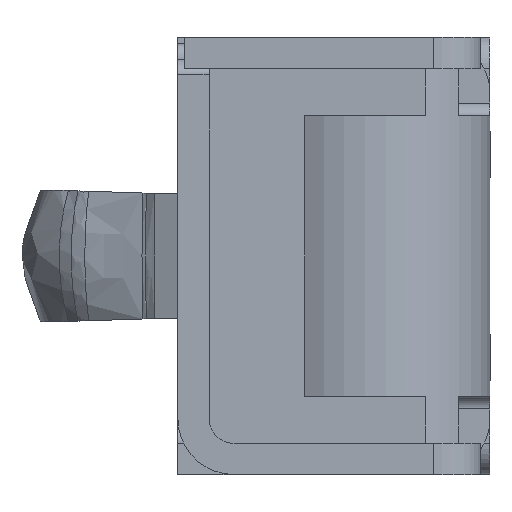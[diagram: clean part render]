
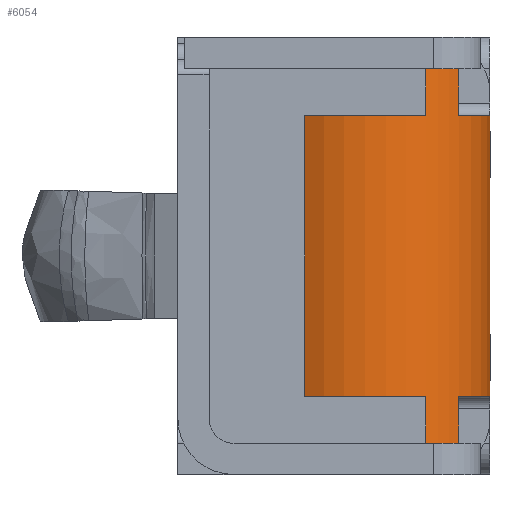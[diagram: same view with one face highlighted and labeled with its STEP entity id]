
A CAD part, left-side view. The second image highlights one B-rep face of the part: STEP entity #6054.
In plain terms, the highlighted cylindrical face has radius 0.4 mm (diameter 0.8 mm), a partial arc.
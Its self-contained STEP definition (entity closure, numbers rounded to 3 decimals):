
#462=CARTESIAN_POINT('',(0.85,-0.6,-0.4));
#463=DIRECTION('',(0.,-1.,0.));
#464=DIRECTION('',(0.875,0.,0.484));
#465=AXIS2_PLACEMENT_3D('',#462,#463,#464);
#591=DIRECTION('',(0.,1.,0.));
#592=VECTOR('',#591,0.15);
#593=CARTESIAN_POINT('',(1.2,-0.6,-0.206));
#594=LINE('',#593,#592);
#595=DIRECTION('',(0.,1.,0.));
#596=VECTOR('',#595,0.15);
#597=CARTESIAN_POINT('',(1.2,0.45,-0.206));
#598=LINE('',#597,#596);
#603=DIRECTION('',(0.,1.,0.));
#604=VECTOR('',#603,0.9);
#605=CARTESIAN_POINT('',(1.2,-0.45,-0.594));
#606=LINE('',#605,#604);
#607=DIRECTION('',(0.,1.,0.));
#608=VECTOR('',#607,0.911);
#609=CARTESIAN_POINT('',(0.85,-0.455,0.));
#610=LINE('',#609,#608);
#615=CARTESIAN_POINT('',(0.85,0.45,-0.4));
#616=DIRECTION('',(0.,1.,0.));
#617=DIRECTION('',(0.875,0.,0.484));
#618=AXIS2_PLACEMENT_3D('',#615,#616,#617);
#624=CARTESIAN_POINT('',(0.85,0.45,-0.4));
#625=DIRECTION('',(0.,1.,0.));
#626=DIRECTION('',(0.05,0.,0.999));
#627=AXIS2_PLACEMENT_3D('',#624,#625,#626);
#641=DIRECTION('',(0.,1.,0.));
#642=VECTOR('',#641,0.15);
#643=CARTESIAN_POINT('',(1.115,0.45,-0.1));
#644=LINE('',#643,#642);
#681=DIRECTION('',(0.,1.,0.));
#682=VECTOR('',#681,0.15);
#683=CARTESIAN_POINT('',(1.115,-0.6,-0.1));
#684=LINE('',#683,#682);
#975=CARTESIAN_POINT('',(0.85,-0.455,0.));
#976=CARTESIAN_POINT('',(0.853,-0.454,0.));
#977=CARTESIAN_POINT('',(0.86,-0.451,
0.));
#978=CARTESIAN_POINT('',(0.867,-0.45,0.));
#979=CARTESIAN_POINT('',(0.87,-0.45,-0.001));
#1117=CARTESIAN_POINT('',(0.85,0.6,-0.4));
#1118=DIRECTION('',(0.,-1.,0.));
#1119=DIRECTION('',(0.875,0.,0.484));
#1120=AXIS2_PLACEMENT_3D('',#1117,#1118,#1119);
#3312=CARTESIAN_POINT('',(0.87,0.45,-0.001));
#3313=CARTESIAN_POINT('',(0.867,0.45,0.));
#3314=CARTESIAN_POINT('',(0.86,0.451,
0.));
#3315=CARTESIAN_POINT('',(0.853,0.454,0.));
#3316=CARTESIAN_POINT('',(0.85,0.455,0.));
#3327=CARTESIAN_POINT('',(0.85,-0.45,-0.4));
#3328=DIRECTION('',(0.,1.,0.));
#3329=DIRECTION('',(0.875,0.,0.484));
#3330=AXIS2_PLACEMENT_3D('',#3327,#3328,#3329);
#3340=CARTESIAN_POINT('',(0.85,-0.45,-0.4));
#3341=DIRECTION('',(0.,1.,0.));
#3342=DIRECTION('',(0.05,0.,0.999));
#3343=AXIS2_PLACEMENT_3D('',#3340,#3341,#3342);
#4165=CARTESIAN_POINT('',(0.85,0.455,0.));
#4167=VERTEX_POINT('',#4165);
#4170=CARTESIAN_POINT('',(0.85,-0.455,0.));
#4172=VERTEX_POINT('',#4170);
#4321=VERTEX_POINT('',#3312);
#4322=VERTEX_POINT('',#979);
#4517=CARTESIAN_POINT('',(1.2,-0.45,-0.594));
#4518=CARTESIAN_POINT('',(1.2,0.45,-0.594));
#4519=VERTEX_POINT('',#4517);
#4520=VERTEX_POINT('',#4518);
#4622=CARTESIAN_POINT('',(1.2,-0.6,-0.206));
#4623=CARTESIAN_POINT('',(1.2,-0.45,-0.206));
#4624=VERTEX_POINT('',#4622);
#4625=VERTEX_POINT('',#4623);
#4626=CARTESIAN_POINT('',(1.2,0.45,-0.206));
#4627=CARTESIAN_POINT('',(1.2,0.6,-0.206));
#4628=VERTEX_POINT('',#4626);
#4629=VERTEX_POINT('',#4627);
#4630=CARTESIAN_POINT('',(1.115,-0.6,-0.1));
#4631=CARTESIAN_POINT('',(1.115,-0.45,-0.1));
#4632=VERTEX_POINT('',#4630);
#4633=VERTEX_POINT('',#4631);
#4634=CARTESIAN_POINT('',(1.115,0.45,-0.1));
#4635=CARTESIAN_POINT('',(1.115,0.6,-0.1));
#4636=VERTEX_POINT('',#4634);
#4637=VERTEX_POINT('',#4635);
#6023=CARTESIAN_POINT('',(0.85,-0.2,-0.4));
#6024=DIRECTION('',(0.,1.,0.));
#6025=DIRECTION('',(1.,0.,0.));
#6026=AXIS2_PLACEMENT_3D('',#6023,#6024,#6025);
#6027=CYLINDRICAL_SURFACE('',#6026,0.4);
#6029=ORIENTED_EDGE('',*,*,#6028,.T.);
#6031=ORIENTED_EDGE('',*,*,#6030,.T.);
#6033=ORIENTED_EDGE('',*,*,#6032,.F.);
#6034=ORIENTED_EDGE('',*,*,#6011,.F.);
#6036=ORIENTED_EDGE('',*,*,#6035,.T.);
#6037=ORIENTED_EDGE('',*,*,#6007,.F.);
#6039=ORIENTED_EDGE('',*,*,#6038,.F.);
#6040=ORIENTED_EDGE('',*,*,#6003,.F.);
#6041=ORIENTED_EDGE('',*,*,#5822,.T.);
#6043=ORIENTED_EDGE('',*,*,#6042,.T.);
#6045=ORIENTED_EDGE('',*,*,#6044,.F.);
#6047=ORIENTED_EDGE('',*,*,#6046,.F.);
#6049=ORIENTED_EDGE('',*,*,#6048,.T.);
#6051=ORIENTED_EDGE('',*,*,#6050,.F.);
#6052=EDGE_LOOP('',(#6029,#6031,#6033,#6034,#6036,#6037,#6039,#6040,#6041,#6043,
#6045,#6047,#6049,#6051));
#6053=FACE_OUTER_BOUND('',#6052,.F.);
#6054=ADVANCED_FACE('',(#6053),#6027,.T.);
#466=CIRCLE('',#465,0.4);
#619=CIRCLE('',#618,0.4);
#628=CIRCLE('',#627,0.4);
#980=B_SPLINE_CURVE_WITH_KNOTS('',3,(#975,#976,#977,#978,#979),.UNSPECIFIED.,
.F.,.F.,(4,1,4),(0.,0.5,1.),.UNSPECIFIED.);
#1121=CIRCLE('',#1120,0.4);
#3317=B_SPLINE_CURVE_WITH_KNOTS('',3,(#3312,#3313,#3314,#3315,#3316),
.UNSPECIFIED.,.F.,.F.,(4,1,4),(0.,0.5,1.),.UNSPECIFIED.);
#3331=CIRCLE('',#3330,0.4);
#3344=CIRCLE('',#3343,0.4);
#5822=EDGE_CURVE('',#4624,#4632,#466,.T.);
#6003=EDGE_CURVE('',#4624,#4625,#594,.T.);
#6007=EDGE_CURVE('',#4519,#4520,#606,.T.);
#6011=EDGE_CURVE('',#4628,#4629,#598,.T.);
#6028=EDGE_CURVE('',#4321,#4636,#628,.T.);
#6030=EDGE_CURVE('',#4636,#4637,#644,.T.);
#6032=EDGE_CURVE('',#4629,#4637,#1121,.T.);
#6035=EDGE_CURVE('',#4628,#4520,#619,.T.);
#6038=EDGE_CURVE('',#4625,#4519,#3331,.T.);
#6042=EDGE_CURVE('',#4632,#4633,#684,.T.);
#6044=EDGE_CURVE('',#4322,#4633,#3344,.T.);
#6046=EDGE_CURVE('',#4172,#4322,#980,.T.);
#6048=EDGE_CURVE('',#4172,#4167,#610,.T.);
#6050=EDGE_CURVE('',#4321,#4167,#3317,.T.);
